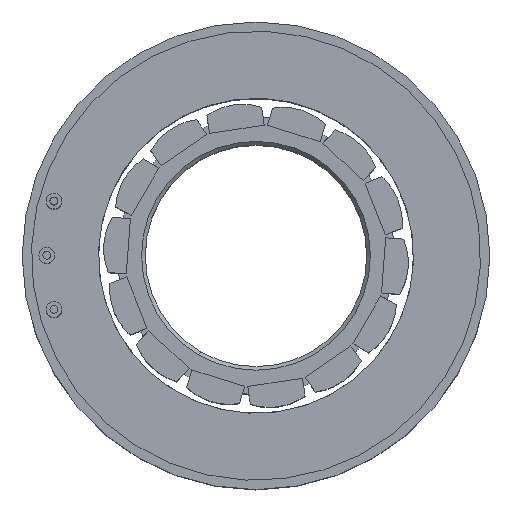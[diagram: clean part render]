
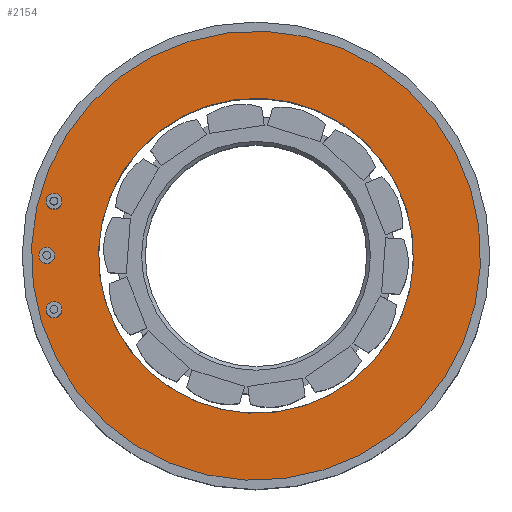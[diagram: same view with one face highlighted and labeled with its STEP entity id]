
A CAD part, top view. The second image highlights one B-rep face of the part: STEP entity #2154.
In plain terms, the highlighted planar face has unit normal (0, 0, 1).
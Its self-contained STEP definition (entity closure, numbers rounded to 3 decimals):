
#88 = CARTESIAN_POINT ( 'NONE',  ( 0., 0., 19.8 ) ) ;
#156 = CARTESIAN_POINT ( 'NONE',  ( 0., 0., 19.8 ) ) ;
#266 = AXIS2_PLACEMENT_3D ( 'NONE', #156, #4015, #1540 ) ;
#340 = VERTEX_POINT ( 'NONE', #5153 ) ;
#440 = CIRCLE ( 'NONE', #266, 18.25 ) ;
#506 = DIRECTION ( 'NONE',  ( 0., 0., 1. ) ) ;
#575 = VERTEX_POINT ( 'NONE', #4615 ) ;
#1029 = DIRECTION ( 'NONE',  ( -0.539, -0.842, 0. ) ) ;
#1108 = FACE_BOUND ( 'NONE', #5114, .T. ) ;
#1266 = VERTEX_POINT ( 'NONE', #5332 ) ;
#1540 = DIRECTION ( 'NONE',  ( -0.539, -0.842, 0. ) ) ;
#1695 = ORIENTED_EDGE ( 'NONE', *, *, #2101, .F. ) ;
#1873 = CIRCLE ( 'NONE', #3042, 12.8 ) ;
#1889 = CARTESIAN_POINT ( 'NONE',  ( 0., 0., 19.8 ) ) ;
#1898 = CARTESIAN_POINT ( 'NONE',  ( 0., 0., 19.8 ) ) ;
#2101 = EDGE_CURVE ( 'NONE', #1266, #575, #4086, .T. ) ;
#2154 = ADVANCED_FACE ( 'NONE', ( #3242, #1108 ), #4952, .T. ) ;
#2819 = DIRECTION ( 'NONE',  ( 0., 0., 1. ) ) ;
#3016 = EDGE_LOOP ( 'NONE', ( #3550, #5512 ) ) ;
#3042 = AXIS2_PLACEMENT_3D ( 'NONE', #1898, #5322, #1029 ) ;
#3173 = EDGE_CURVE ( 'NONE', #340, #3919, #3680, .T. ) ;
#3215 = DIRECTION ( 'NONE',  ( 0., 0., 1. ) ) ;
#3233 = AXIS2_PLACEMENT_3D ( 'NONE', #88, #506, #5412 ) ;
#3242 = FACE_OUTER_BOUND ( 'NONE', #3016, .T. ) ;
#3535 = EDGE_CURVE ( 'NONE', #3919, #340, #440, .T. ) ;
#3547 = AXIS2_PLACEMENT_3D ( 'NONE', #1889, #2819, #4527 ) ;
#3550 = ORIENTED_EDGE ( 'NONE', *, *, #3535, .T. ) ;
#3606 = DIRECTION ( 'NONE',  ( -0.539, -0.842, 0. ) ) ;
#3680 = CIRCLE ( 'NONE', #3233, 18.25 ) ;
#3919 = VERTEX_POINT ( 'NONE', #4792 ) ;
#3960 = EDGE_CURVE ( 'NONE', #575, #1266, #1873, .T. ) ;
#4003 = CARTESIAN_POINT ( 'NONE',  ( 0., 0., 19.8 ) ) ;
#4015 = DIRECTION ( 'NONE',  ( 0., 0., 1. ) ) ;
#4086 = CIRCLE ( 'NONE', #4980, 12.8 ) ;
#4527 = DIRECTION ( 'NONE',  ( -0.539, -0.842, 0. ) ) ;
#4615 = CARTESIAN_POINT ( 'NONE',  ( 6.904, 10.778, 19.8 ) ) ;
#4792 = CARTESIAN_POINT ( 'NONE',  ( 9.844, 15.367, 19.8 ) ) ;
#4952 = PLANE ( 'NONE',  #3547 ) ;
#4980 = AXIS2_PLACEMENT_3D ( 'NONE', #4003, #3215, #3606 ) ;
#5114 = EDGE_LOOP ( 'NONE', ( #5312, #1695 ) ) ;
#5153 = CARTESIAN_POINT ( 'NONE',  ( -9.844, -15.367, 19.8 ) ) ;
#5312 = ORIENTED_EDGE ( 'NONE', *, *, #3960, .F. ) ;
#5322 = DIRECTION ( 'NONE',  ( 0., 0., 1. ) ) ;
#5332 = CARTESIAN_POINT ( 'NONE',  ( -6.904, -10.778, 19.8 ) ) ;
#5412 = DIRECTION ( 'NONE',  ( -0.539, -0.842, 0. ) ) ;
#5512 = ORIENTED_EDGE ( 'NONE', *, *, #3173, .T. ) ;
